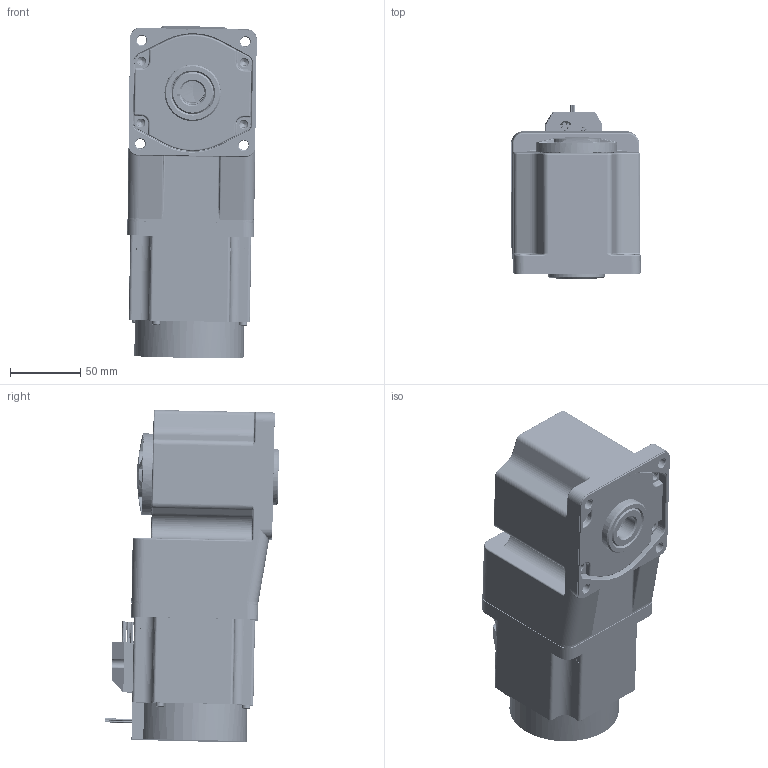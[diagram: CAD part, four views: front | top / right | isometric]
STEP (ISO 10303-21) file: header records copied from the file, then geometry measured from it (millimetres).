
FILE_DESCRIPTION(/* description */ (''),/* implementation_level */ '2;1');
FILE_NAME(/* name */ 'Z55BLD200-24GU-30S_5GU□RC.step',/* time_stamp */ '2026-07-14T11:03:50+08:00',/* author */ (''),/* organization */ (''),/* preprocessor_version */ 'ST-DEVELOPER v16',/* originating_system */ 'SIEMENS PLM Software NX 10.0',/* authorisation */ '');
FILE_SCHEMA (('AUTOMOTIVE_DESIGN { 1 0 10303 214 3 1 1 1 }'));
Products named in the file (1): Allen12
Bounding box: 91.97 x 123.49 x 235.84 mm (x, y, z)
Volume: 975305.3 mm3; surface area: 290463.5 mm2
Topology: 28 solids, 30 shells, 3864 faces, 10368 edges, 6505 vertices
Faces by surface type: cylinder 2047, plane 792, torus 368, cone 305, bspline 217, sphere 135
Entity records: 400194 total; most frequent: CARTESIAN_POINT 326680, ORIENTED_EDGE 20484, EDGE_CURVE 10242, B_SPLINE_CURVE_WITH_KNOTS 9282, DIRECTION 7296, VERTEX_POINT 6504, EDGE_LOOP 4074, ADVANCED_FACE 3864
